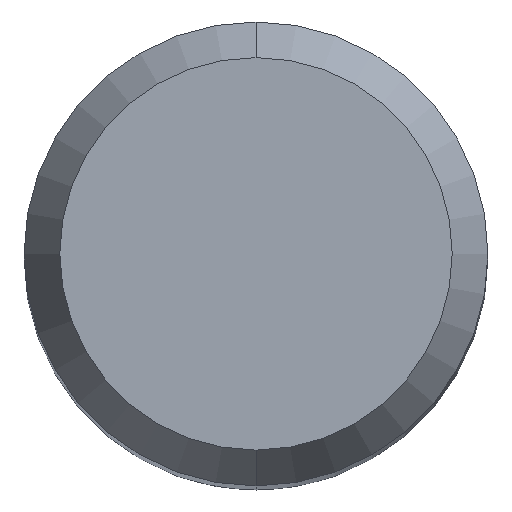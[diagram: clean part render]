
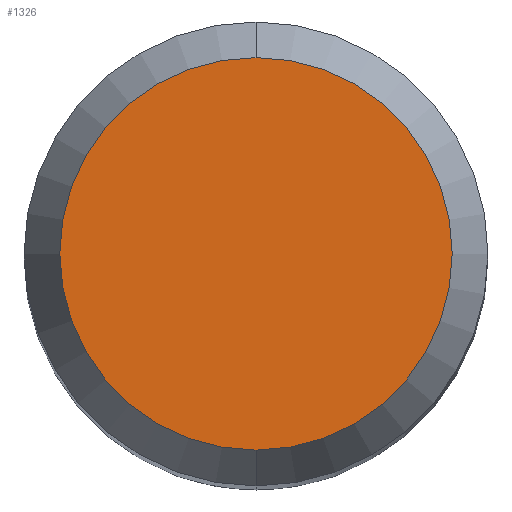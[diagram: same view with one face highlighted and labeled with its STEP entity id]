
A CAD part, top view. The second image highlights one B-rep face of the part: STEP entity #1326.
In plain terms, the highlighted planar face has unit normal (0, 0, 1).
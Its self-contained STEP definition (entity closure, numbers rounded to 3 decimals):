
#490=EDGE_CURVE('',#710,#622,#1399,.T.);
#622=VERTEX_POINT('',#1543);
#710=VERTEX_POINT('',#1640);
#1172=EDGE_CURVE('',#622,#710,#2145,.T.);
#1326=ADVANCED_FACE('',(#2313),#2314,.T.);
#1399=CIRCLE('',#2394,2.538);
#1543=CARTESIAN_POINT('',(0.,-2.538,0.0));
#1640=CARTESIAN_POINT('',(0.0,2.538,0.0));
#2145=CIRCLE('',#5426,2.538);
#2313=FACE_OUTER_BOUND('',#6189,.T.);
#2314=PLANE('',#6190);
#2394=AXIS2_PLACEMENT_3D('',#6279,#6280,#6281);
#5426=AXIS2_PLACEMENT_3D('',#7127,#7128,#7129);
#6189=EDGE_LOOP('',(#7305,#7306));
#6190=AXIS2_PLACEMENT_3D('',#7307,#7308,#7309);
#6279=CARTESIAN_POINT('',(0.0,0.0,0.0));
#6280=DIRECTION('',(0.0,0.0,-1.0));
#6281=DIRECTION('',(0.0,1.0,0.0));
#7127=CARTESIAN_POINT('',(0.0,0.0,0.0));
#7128=DIRECTION('',(0.0,0.0,-1.0));
#7129=DIRECTION('',(0.0,1.0,0.0));
#7305=ORIENTED_EDGE('',*,*,#490,.F.);
#7306=ORIENTED_EDGE('',*,*,#1172,.F.);
#7307=CARTESIAN_POINT('',(0.0,1.269,0.0));
#7308=DIRECTION('',(-0.0,0.0,1.0));
#7309=DIRECTION('',(0.0,-1.0,0.0));
